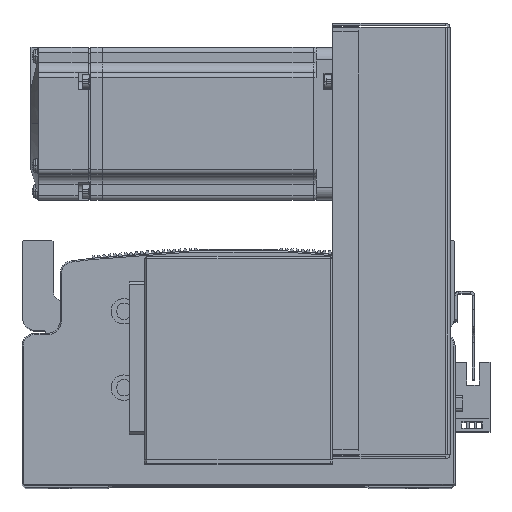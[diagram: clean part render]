
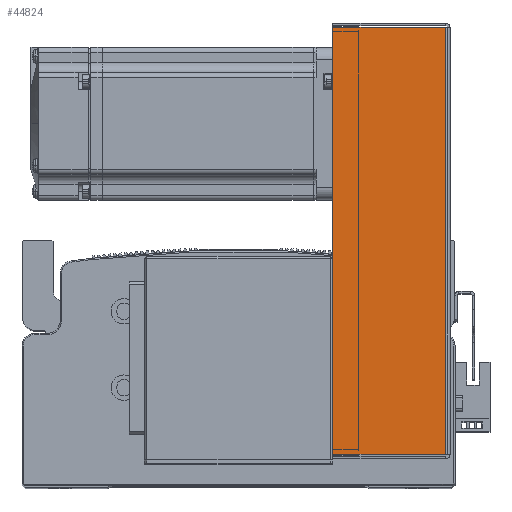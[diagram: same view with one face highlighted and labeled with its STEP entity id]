
A CAD part, top view. The second image highlights one B-rep face of the part: STEP entity #44824.
In plain terms, the highlighted planar face has unit normal (0, 0, 1).
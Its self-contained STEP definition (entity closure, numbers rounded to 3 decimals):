
#3909 = DIRECTION ( 'NONE',  ( 0., 1., 0. ) ) ;
#3933 = CARTESIAN_POINT ( 'NONE',  ( -83.793, 0., 40.5 ) ) ;
#4150 = DIRECTION ( 'NONE',  ( -1., 0., 0. ) ) ;
#4193 = CARTESIAN_POINT ( 'NONE',  ( -84.5, 45., 40.5 ) ) ;
#4241 = CARTESIAN_POINT ( 'NONE',  ( 0., 0.737, 40.5 ) ) ;
#4281 = DIRECTION ( 'NONE',  ( -1., 0., 0. ) ) ;
#4355 = CARTESIAN_POINT ( 'NONE',  ( 83.793, 0., 40.5 ) ) ;
#4420 = DIRECTION ( 'NONE',  ( 0., 1., 0. ) ) ;
#5145 = EDGE_CURVE ( 'NONE', #33906, #34104, #19953, .T. ) ;
#5183 = EDGE_CURVE ( 'NONE', #33972, #34104, #20043, .T. ) ;
#5202 = EDGE_CURVE ( 'NONE', #33960, #33906, #20055, .T. ) ;
#5204 = EDGE_CURVE ( 'NONE', #33960, #33972, #20000, .T. ) ;
#19947 = VECTOR ( 'NONE', #3909, 1000. ) ;
#19953 = LINE ( 'NONE', #3933, #19947 ) ;
#20000 = LINE ( 'NONE', #4355, #20058 ) ;
#20008 = VECTOR ( 'NONE', #4150, 1000. ) ;
#20043 = LINE ( 'NONE', #4193, #20008 ) ;
#20052 = VECTOR ( 'NONE', #4281, 1000. ) ;
#20055 = LINE ( 'NONE', #4241, #20052 ) ;
#20058 = VECTOR ( 'NONE', #4420, 1000. ) ;
#21871 = ORIENTED_EDGE ( 'NONE', *, *, #5145, .F. ) ;
#21876 = ORIENTED_EDGE ( 'NONE', *, *, #5202, .F. ) ;
#21883 = ORIENTED_EDGE ( 'NONE', *, *, #5204, .T. ) ;
#21917 = ORIENTED_EDGE ( 'NONE', *, *, #5183, .T. ) ;
#25481 = FACE_OUTER_BOUND ( 'NONE', #48876, .T. ) ;
#33906 = VERTEX_POINT ( 'NONE', #54794 ) ;
#33960 = VERTEX_POINT ( 'NONE', #54772 ) ;
#33972 = VERTEX_POINT ( 'NONE', #54800 ) ;
#34104 = VERTEX_POINT ( 'NONE', #54918 ) ;
#44824 = ADVANCED_FACE ( 'NONE', ( #25481 ), #73896, .F. ) ;
#48876 = EDGE_LOOP ( 'NONE', ( #21876, #21883, #21917, #21871 ) ) ;
#54772 = CARTESIAN_POINT ( 'NONE',  ( 83.793, 0.737, 40.5 ) ) ;
#54794 = CARTESIAN_POINT ( 'NONE',  ( -83.793, 0.737, 40.5 ) ) ;
#54800 = CARTESIAN_POINT ( 'NONE',  ( 83.793, 45., 40.5 ) ) ;
#54918 = CARTESIAN_POINT ( 'NONE',  ( -83.793, 45., 40.5 ) ) ;
#60291 = AXIS2_PLACEMENT_3D ( 'NONE', #73864, #73853, #73891 ) ;
#73853 = DIRECTION ( 'NONE',  ( 0., 0., -1. ) ) ;
#73864 = CARTESIAN_POINT ( 'NONE',  ( 0., 0., 40.5 ) ) ;
#73891 = DIRECTION ( 'NONE',  ( -1., 0., 0. ) ) ;
#73896 = PLANE ( 'NONE',  #60291 ) ;
